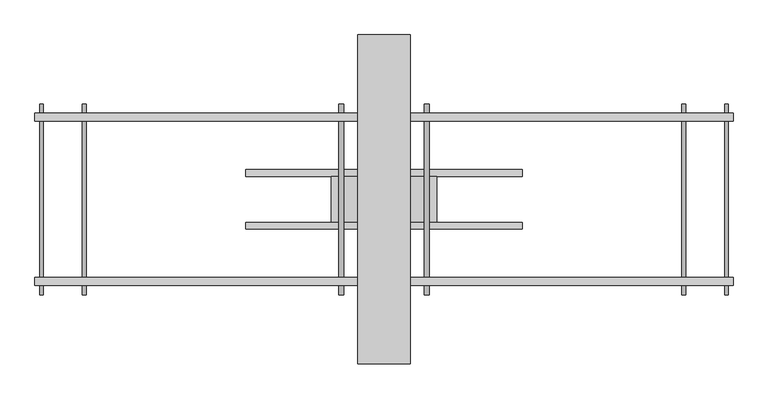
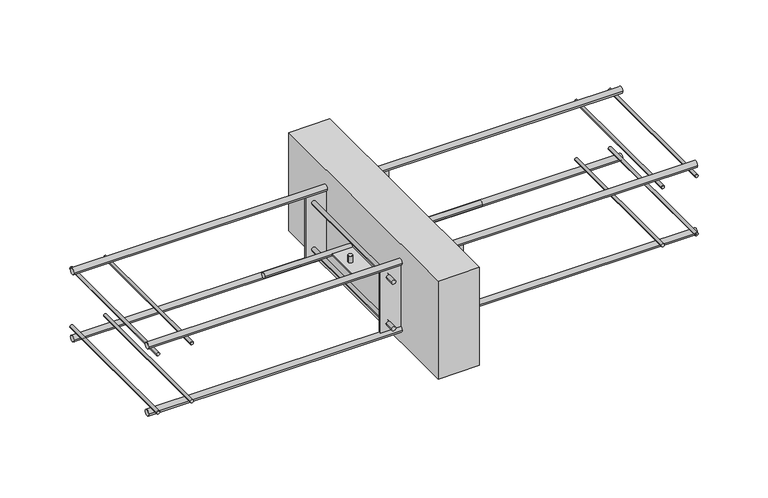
"""IFC4 building model written with IfcOpenShell, lengths in millimetres: proxy geometry, ACINOXplus_Typenreihe_M : MP+ S1."""

from ifc_helpers import new_model, si_unit, point, frame, frame_2d, origin, place, context, project, spatial, polyline, circle_curve, trimmed, segment, composite_curve, outline, extrude, source, transform, mapped, element, save
from ifc_brep_helpers import plane_surface, cylinder_surface, advanced_brep


def generic_models_0f1e28e0(model_context):
    return source(origin(), model_context, "Body", "SolidModel", [
        extrude(outline(polyline([(40.0, 250.0), (40.0, -250.0), (-40.0, -250.0), (-40.0, 250.0), (40.0, 250.0)])), frame((0.0, 0.0, -200.0), z_axis=(0.0, 0.0, 1.0), x_axis=(1.0, 0.0, 0.0)), (0.0, 0.0, 1.0), 200.0),
        extrude(outline(composite_curve([segment(trimmed(circle_curve(frame_2d((-40.0, -104.5)), 5.0), [point((-45.0, -104.5))], [point((-35.0, -104.5))], False, "CARTESIAN"), True, "CONTINUOUS"), segment(trimmed(circle_curve(frame_2d((-40.0, -104.5)), 5.0), [point((-35.0, -104.5))], [point((-45.0, -104.5))], False, "CARTESIAN"), True, "CONTINUOUS")], self_intersect=False)), frame((-210.0, 0.0, 0.0), z_axis=(1.0, 0.0, 0.0), x_axis=(0.0, 1.0, 0.0)), (0.0, 0.0, 1.0), 420.0),
        extrude(outline(composite_curve([segment(trimmed(circle_curve(frame_2d((40.0, -104.5)), 5.0), [point((35.0, -104.5))], [point((45.0, -104.5))], False, "CARTESIAN"), True, "CONTINUOUS"), segment(trimmed(circle_curve(frame_2d((40.0, -104.5)), 5.0), [point((45.0, -104.5))], [point((35.0, -104.5))], False, "CARTESIAN"), True, "CONTINUOUS")], self_intersect=False)), frame((-210.0, 0.0, 0.0), z_axis=(1.0, 0.0, 0.0), x_axis=(0.0, 1.0, 0.0)), (0.0, 0.0, 1.0), 420.0),
        advanced_brep(
        [(-69.0, 0.0, -89.5), (-61.0, 0.0, -89.5), (61.0, 0.0, -89.5), (69.0, 0.0, -89.5), (-69.0, 0.0, -119.5), (-61.0, 0.0, -119.5), (61.0, 0.0, -119.5), (69.0, 0.0, -119.5), (-69.0, 0.0, -103.0), (-61.0, 0.0, -103.0), (-61.0, 0.0, -106.0), (-69.0, 0.0, -106.0), (61.0, 0.0, -103.0), (69.0, 0.0, -103.0), (69.0, 0.0, -106.0), (61.0, 0.0, -106.0), (80.0, 35.0, -103.0), (-80.0, 35.0, -103.0), (-80.0, -35.0, -103.0), (80.0, -35.0, -103.0), (80.0, 35.0, -106.0), (80.0, -35.0, -106.0), (-80.0, -35.0, -106.0), (-80.0, 35.0, -106.0)],
        [
            (0, 1, circle_curve(frame((-65.0, 0.0, -89.5), z_axis=(0.0, 0.0, 1.0), x_axis=(1.0, 0.0, 0.0)), 4.0)),
            (1, 0, circle_curve(frame((-65.0, 0.0, -89.5), z_axis=(0.0, 0.0, 1.0), x_axis=(1.0, 0.0, 0.0)), 4.0)),
            (2, 3, circle_curve(frame((65.0, 0.0, -89.5), z_axis=(0.0, 0.0, 1.0), x_axis=(1.0, 0.0, 0.0)), 4.0)),
            (3, 2, circle_curve(frame((65.0, 0.0, -89.5), z_axis=(0.0, 0.0, 1.0), x_axis=(1.0, 0.0, 0.0)), 4.0)),
            (4, 5, circle_curve(frame((-65.0, 0.0, -119.5), z_axis=(0.0, 0.0, -1.0), x_axis=(1.0, 0.0, 0.0)), 4.0)),
            (5, 4, circle_curve(frame((-65.0, 0.0, -119.5), z_axis=(0.0, 0.0, -1.0), x_axis=(1.0, 0.0, 0.0)), 4.0)),
            (6, 7, circle_curve(frame((65.0, 0.0, -119.5), z_axis=(0.0, 0.0, -1.0), x_axis=(1.0, 0.0, 0.0)), 4.0)),
            (7, 6, circle_curve(frame((65.0, 0.0, -119.5), z_axis=(0.0, 0.0, -1.0), x_axis=(1.0, 0.0, 0.0)), 4.0)),
            (0, 8),
            (8, 9, circle_curve(frame((-65.0, 0.0, -103.0), z_axis=(0.0, 0.0, 1.0), x_axis=(1.0, 0.0, 0.0)), 4.0)),
            (9, 1),
            (5, 10),
            (10, 11, circle_curve(frame((-65.0, 0.0, -106.0), z_axis=(0.0, 0.0, -1.0), x_axis=(1.0, 0.0, 0.0)), 4.0)),
            (11, 4),
            (9, 8, circle_curve(frame((-65.0, 0.0, -103.0), z_axis=(0.0, 0.0, 1.0), x_axis=(1.0, 0.0, 0.0)), 4.0)),
            (11, 10, circle_curve(frame((-65.0, 0.0, -106.0), z_axis=(0.0, 0.0, -1.0), x_axis=(1.0, 0.0, 0.0)), 4.0)),
            (2, 12),
            (12, 13, circle_curve(frame((65.0, 0.0, -103.0), z_axis=(0.0, 0.0, 1.0), x_axis=(1.0, 0.0, 0.0)), 4.0)),
            (13, 3),
            (7, 14),
            (14, 15, circle_curve(frame((65.0, 0.0, -106.0), z_axis=(0.0, 0.0, -1.0), x_axis=(1.0, 0.0, 0.0)), 4.0)),
            (15, 6),
            (13, 12, circle_curve(frame((65.0, 0.0, -103.0), z_axis=(0.0, 0.0, 1.0), x_axis=(1.0, 0.0, 0.0)), 4.0)),
            (15, 14, circle_curve(frame((65.0, 0.0, -106.0), z_axis=(0.0, 0.0, -1.0), x_axis=(1.0, 0.0, 0.0)), 4.0)),
            (16, 17),
            (17, 18),
            (18, 19),
            (19, 16),
            (20, 21),
            (21, 22),
            (22, 23),
            (23, 20),
            (16, 20),
            (23, 17),
            (22, 18),
            (21, 19),
        ],
        [
            plane_surface(frame((-61.0, 0.0, -89.5), z_axis=(0.0, 0.0, 1.0), x_axis=(0.0, 1.0, 0.0))),
            plane_surface(frame((-61.0, 0.0, -119.5), z_axis=(0.0, 0.0, -1.0), x_axis=(0.0, -1.0, 0.0))),
            cylinder_surface(frame((-65.0, 0.0, -119.5), z_axis=(0.0, 0.0, 1.0), x_axis=(1.0, 0.0, 0.0)), 4.0),
            cylinder_surface(frame((65.0, 0.0, -104.5), z_axis=(0.0, 0.0, 1.0), x_axis=(1.0, 0.0, 0.0)), 4.0),
            plane_surface(frame((-80.0, 35.0, -103.0), z_axis=(0.0, 0.0, 1.0), x_axis=(-1.0, 0.0, 0.0))),
            plane_surface(frame((-80.0, 35.0, -106.0), z_axis=(0.0, 0.0, -1.0), x_axis=(1.0, 0.0, 0.0))),
            plane_surface(frame((80.0, 35.0, -103.0), z_axis=(0.0, 1.0, 0.0), x_axis=(0.0, 0.0, -1.0))),
            plane_surface(frame((-80.0, 35.0, -103.0), z_axis=(-1.0, 0.0, 0.0), x_axis=(0.0, 0.0, -1.0))),
            plane_surface(frame((-80.0, -35.0, -103.0), z_axis=(0.0, -1.0, 0.0), x_axis=(0.0, 0.0, -1.0))),
            plane_surface(frame((80.0, -35.0, -103.0), z_axis=(1.0, 0.0, 0.0), x_axis=(0.0, 0.0, -1.0))),
        ],
        [
            (0, [[1, 2]]),
            (0, [[3, 4]]),
            (1, [[5, 6]]),
            (1, [[7, 8]]),
            (2, [[-1, 9, 10, 11]]),
            (2, [[-6, 12, 13, 14]]),
            (2, [[-2, -11, 15, -9]]),
            (2, [[-5, -14, 16, -12]]),
            (3, [[-3, 17, 18, 19]]),
            (3, [[-8, 20, 21, 22]]),
            (3, [[-4, -19, 23, -17]]),
            (3, [[-7, -22, 24, -20]]),
            (4, [[25, 26, 27, 28], [-10, -15], [-18, -23]]),
            (5, [[29, 30, 31, 32], [-13, -16], [-21, -24]]),
            (6, [[-25, 33, -32, 34]]),
            (7, [[-26, -34, -31, 35]]),
            (8, [[-27, -35, -30, 36]]),
            (9, [[-28, -36, -29, -33]]),
        ],
    ),
        extrude(outline(polyline([(80.0, -123.5), (80.0, -126.5), (-80.0, -126.5), (-80.0, -123.5), (80.0, -123.5)])), frame((0.0, 0.0, -167.0), z_axis=(0.0, 0.0, 1.0), x_axis=(1.0, 0.0, 0.0)), (0.0, 0.0, 1.0), 125.0),
        extrude(outline(polyline([(80.0, 126.5), (80.0, 123.5), (-80.0, 123.5), (-80.0, 126.5), (80.0, 126.5)])), frame((0.0, 0.0, -167.0), z_axis=(0.0, 0.0, 1.0), x_axis=(1.0, 0.0, 0.0)), (0.0, 0.0, 1.0), 125.0),
        extrude(outline(composite_curve([segment(trimmed(circle_curve(frame_2d((-152.0, -65.0)), 4.0), [point((-152.0, -69.0))], [point((-152.0, -61.0))], False, "CARTESIAN"), True, "CONTINUOUS"), segment(trimmed(circle_curve(frame_2d((-152.0, -65.0)), 4.0), [point((-152.0, -61.0))], [point((-152.0, -69.0))], False, "CARTESIAN"), True, "CONTINUOUS")], self_intersect=False)), frame((0.0, 126.5, 0.0), z_axis=(0.0, 1.0, 0.0), x_axis=(0.0, 0.0, 1.0)), (0.0, 0.0, 1.0), 18.5),
        extrude(outline(composite_curve([segment(trimmed(circle_curve(frame_2d((-152.0, -65.0)), 4.0), [point((-152.0, -61.0))], [point((-152.0, -69.0))], False, "CARTESIAN"), True, "CONTINUOUS"), segment(trimmed(circle_curve(frame_2d((-152.0, -65.0)), 4.0), [point((-152.0, -69.0))], [point((-152.0, -61.0))], False, "CARTESIAN"), True, "CONTINUOUS")], self_intersect=False)), frame((0.0, -145.0, 0.0), z_axis=(0.0, 1.0, 0.0), x_axis=(0.0, 0.0, 1.0)), (0.0, 0.0, 1.0), 18.5),
        extrude(outline(composite_curve([segment(trimmed(circle_curve(frame_2d((-152.0, -65.0)), 4.0), [point((-152.0, -69.0))], [point((-152.0, -61.0))], False, "CARTESIAN"), True, "CONTINUOUS"), segment(trimmed(circle_curve(frame_2d((-152.0, -65.0)), 4.0), [point((-152.0, -61.0))], [point((-152.0, -69.0))], False, "CARTESIAN"), True, "CONTINUOUS")], self_intersect=False)), frame((0.0, -123.5, 0.0), z_axis=(0.0, 1.0, 0.0), x_axis=(0.0, 0.0, 1.0)), (0.0, 0.0, 1.0), 247.0),
        extrude(outline(composite_curve([segment(trimmed(circle_curve(frame_2d((-152.0, 65.0)), 4.0), [point((-152.0, 61.0))], [point((-152.0, 69.0))], False, "CARTESIAN"), True, "CONTINUOUS"), segment(trimmed(circle_curve(frame_2d((-152.0, 65.0)), 4.0), [point((-152.0, 69.0))], [point((-152.0, 61.0))], False, "CARTESIAN"), True, "CONTINUOUS")], self_intersect=False)), frame((0.0, 126.5, 0.0), z_axis=(0.0, 1.0, 0.0), x_axis=(0.0, 0.0, 1.0)), (0.0, 0.0, 1.0), 18.5),
        extrude(outline(composite_curve([segment(trimmed(circle_curve(frame_2d((-152.0, 65.0)), 4.0), [point((-152.0, 69.0))], [point((-152.0, 61.0))], False, "CARTESIAN"), True, "CONTINUOUS"), segment(trimmed(circle_curve(frame_2d((-152.0, 65.0)), 4.0), [point((-152.0, 61.0))], [point((-152.0, 69.0))], False, "CARTESIAN"), True, "CONTINUOUS")], self_intersect=False)), frame((0.0, -145.0, 0.0), z_axis=(0.0, 1.0, 0.0), x_axis=(0.0, 0.0, 1.0)), (0.0, 0.0, 1.0), 18.5),
        extrude(outline(composite_curve([segment(trimmed(circle_curve(frame_2d((-152.0, 65.0)), 4.0), [point((-152.0, 61.0))], [point((-152.0, 69.0))], False, "CARTESIAN"), True, "CONTINUOUS"), segment(trimmed(circle_curve(frame_2d((-152.0, 65.0)), 4.0), [point((-152.0, 69.0))], [point((-152.0, 61.0))], False, "CARTESIAN"), True, "CONTINUOUS")], self_intersect=False)), frame((0.0, -123.5, 0.0), z_axis=(0.0, 1.0, 0.0), x_axis=(0.0, 0.0, 1.0)), (0.0, 0.0, 1.0), 247.0),
        extrude(outline(composite_curve([segment(trimmed(circle_curve(frame_2d((-57.0, -65.0)), 4.0), [point((-57.0, -69.0))], [point((-57.0, -61.0))], False, "CARTESIAN"), True, "CONTINUOUS"), segment(trimmed(circle_curve(frame_2d((-57.0, -65.0)), 4.0), [point((-57.0, -61.0))], [point((-57.0, -69.0))], False, "CARTESIAN"), True, "CONTINUOUS")], self_intersect=False)), frame((0.0, 126.5, 0.0), z_axis=(0.0, 1.0, 0.0), x_axis=(0.0, 0.0, 1.0)), (0.0, 0.0, 1.0), 18.5),
        extrude(outline(composite_curve([segment(trimmed(circle_curve(frame_2d((-57.0, -65.0)), 4.0), [point((-57.0, -61.0))], [point((-57.0, -69.0))], False, "CARTESIAN"), True, "CONTINUOUS"), segment(trimmed(circle_curve(frame_2d((-57.0, -65.0)), 4.0), [point((-57.0, -69.0))], [point((-57.0, -61.0))], False, "CARTESIAN"), True, "CONTINUOUS")], self_intersect=False)), frame((0.0, -145.0, 0.0), z_axis=(0.0, 1.0, 0.0), x_axis=(0.0, 0.0, 1.0)), (0.0, 0.0, 1.0), 18.5),
        extrude(outline(composite_curve([segment(trimmed(circle_curve(frame_2d((-57.0, -65.0)), 4.0), [point((-57.0, -69.0))], [point((-57.0, -61.0))], False, "CARTESIAN"), True, "CONTINUOUS"), segment(trimmed(circle_curve(frame_2d((-57.0, -65.0)), 4.0), [point((-57.0, -61.0))], [point((-57.0, -69.0))], False, "CARTESIAN"), True, "CONTINUOUS")], self_intersect=False)), frame((0.0, -123.5, 0.0), z_axis=(0.0, 1.0, 0.0), x_axis=(0.0, 0.0, 1.0)), (0.0, 0.0, 1.0), 247.0),
        extrude(outline(composite_curve([segment(trimmed(circle_curve(frame_2d((-57.0, 65.0)), 4.0), [point((-57.0, 61.0))], [point((-57.0, 69.0))], False, "CARTESIAN"), True, "CONTINUOUS"), segment(trimmed(circle_curve(frame_2d((-57.0, 65.0)), 4.0), [point((-57.0, 69.0))], [point((-57.0, 61.0))], False, "CARTESIAN"), True, "CONTINUOUS")], self_intersect=False)), frame((0.0, 126.5, 0.0), z_axis=(0.0, 1.0, 0.0), x_axis=(0.0, 0.0, 1.0)), (0.0, 0.0, 1.0), 18.5),
        extrude(outline(composite_curve([segment(trimmed(circle_curve(frame_2d((-57.0, 65.0)), 4.0), [point((-57.0, 69.0))], [point((-57.0, 61.0))], False, "CARTESIAN"), True, "CONTINUOUS"), segment(trimmed(circle_curve(frame_2d((-57.0, 65.0)), 4.0), [point((-57.0, 61.0))], [point((-57.0, 69.0))], False, "CARTESIAN"), True, "CONTINUOUS")], self_intersect=False)), frame((0.0, -145.0, 0.0), z_axis=(0.0, 1.0, 0.0), x_axis=(0.0, 0.0, 1.0)), (0.0, 0.0, 1.0), 18.5),
        extrude(outline(composite_curve([segment(trimmed(circle_curve(frame_2d((-57.0, 65.0)), 4.0), [point((-57.0, 61.0))], [point((-57.0, 69.0))], False, "CARTESIAN"), True, "CONTINUOUS"), segment(trimmed(circle_curve(frame_2d((-57.0, 65.0)), 4.0), [point((-57.0, 69.0))], [point((-57.0, 61.0))], False, "CARTESIAN"), True, "CONTINUOUS")], self_intersect=False)), frame((0.0, -123.5, 0.0), z_axis=(0.0, 1.0, 0.0), x_axis=(0.0, 0.0, 1.0)), (0.0, 0.0, 1.0), 247.0),
        extrude(outline(composite_curve([segment(trimmed(circle_curve(frame_2d((125.0, -173.0)), 6.0), [point((119.0, -173.0))], [point((131.0, -173.0))], False, "CARTESIAN"), True, "CONTINUOUS"), segment(trimmed(circle_curve(frame_2d((125.0, -173.0)), 6.0), [point((131.0, -173.0))], [point((119.0, -173.0))], False, "CARTESIAN"), True, "CONTINUOUS")], self_intersect=False)), frame((-530.0, 0.0, 0.0), z_axis=(1.0, 0.0, 0.0), x_axis=(0.0, 1.0, 0.0)), (0.0, 0.0, 1.0), 1060.0),
        extrude(outline(composite_curve([segment(trimmed(circle_curve(frame_2d((-125.0, -173.0)), 6.0), [point((-131.0, -173.0))], [point((-119.0, -173.0))], False, "CARTESIAN"), True, "CONTINUOUS"), segment(trimmed(circle_curve(frame_2d((-125.0, -173.0)), 6.0), [point((-119.0, -173.0))], [point((-131.0, -173.0))], False, "CARTESIAN"), True, "CONTINUOUS")], self_intersect=False)), frame((-530.0, 0.0, 0.0), z_axis=(1.0, 0.0, 0.0), x_axis=(0.0, 1.0, 0.0)), (0.0, 0.0, 1.0), 1060.0),
        extrude(outline(composite_curve([segment(trimmed(circle_curve(frame_2d((125.0, -36.0)), 6.0), [point((119.0, -36.0))], [point((131.0, -36.0))], False, "CARTESIAN"), True, "CONTINUOUS"), segment(trimmed(circle_curve(frame_2d((125.0, -36.0)), 6.0), [point((131.0, -36.0))], [point((119.0, -36.0))], False, "CARTESIAN"), True, "CONTINUOUS")], self_intersect=False)), frame((-530.0, 0.0, 0.0), z_axis=(1.0, 0.0, 0.0), x_axis=(0.0, 1.0, 0.0)), (0.0, 0.0, 1.0), 1060.0),
        extrude(outline(composite_curve([segment(trimmed(circle_curve(frame_2d((-125.0, -36.0)), 6.0), [point((-131.0, -36.0))], [point((-119.0, -36.0))], False, "CARTESIAN"), True, "CONTINUOUS"), segment(trimmed(circle_curve(frame_2d((-125.0, -36.0)), 6.0), [point((-119.0, -36.0))], [point((-131.0, -36.0))], False, "CARTESIAN"), True, "CONTINUOUS")], self_intersect=False)), frame((-530.0, 0.0, 0.0), z_axis=(1.0, 0.0, 0.0), x_axis=(0.0, 1.0, 0.0)), (0.0, 0.0, 1.0), 1060.0),
        extrude(outline(composite_curve([segment(trimmed(circle_curve(frame_2d((-164.0, -520.0)), 3.0), [point((-164.0, -517.0))], [point((-164.0, -523.0))], False, "CARTESIAN"), True, "CONTINUOUS"), segment(trimmed(circle_curve(frame_2d((-164.0, -520.0)), 3.0), [point((-164.0, -523.0))], [point((-164.0, -517.0))], False, "CARTESIAN"), True, "CONTINUOUS")], self_intersect=False)), frame((0.0, -145.0, 0.0), z_axis=(0.0, 1.0, 0.0), x_axis=(0.0, 0.0, 1.0)), (0.0, 0.0, 1.0), 290.0),
        extrude(outline(composite_curve([segment(trimmed(circle_curve(frame_2d((-164.0, -455.0)), 3.0), [point((-164.0, -452.0))], [point((-164.0, -458.0))], False, "CARTESIAN"), True, "CONTINUOUS"), segment(trimmed(circle_curve(frame_2d((-164.0, -455.0)), 3.0), [point((-164.0, -458.0))], [point((-164.0, -452.0))], False, "CARTESIAN"), True, "CONTINUOUS")], self_intersect=False)), frame((0.0, -145.0, 0.0), z_axis=(0.0, 1.0, 0.0), x_axis=(0.0, 0.0, 1.0)), (0.0, 0.0, 1.0), 290.0),
        extrude(outline(composite_curve([segment(trimmed(circle_curve(frame_2d((-164.0, 455.0)), 3.0), [point((-164.0, 458.0))], [point((-164.0, 452.0))], False, "CARTESIAN"), True, "CONTINUOUS"), segment(trimmed(circle_curve(frame_2d((-164.0, 455.0)), 3.0), [point((-164.0, 452.0))], [point((-164.0, 458.0))], False, "CARTESIAN"), True, "CONTINUOUS")], self_intersect=False)), frame((0.0, -145.0, 0.0), z_axis=(0.0, 1.0, 0.0), x_axis=(0.0, 0.0, 1.0)), (0.0, 0.0, 1.0), 290.0),
        extrude(outline(composite_curve([segment(trimmed(circle_curve(frame_2d((-164.0, 520.0)), 3.0), [point((-164.0, 523.0))], [point((-164.0, 517.0))], False, "CARTESIAN"), True, "CONTINUOUS"), segment(trimmed(circle_curve(frame_2d((-164.0, 520.0)), 3.0), [point((-164.0, 517.0))], [point((-164.0, 523.0))], False, "CARTESIAN"), True, "CONTINUOUS")], self_intersect=False)), frame((0.0, -145.0, 0.0), z_axis=(0.0, 1.0, 0.0), x_axis=(0.0, 0.0, 1.0)), (0.0, 0.0, 1.0), 290.0),
        extrude(outline(composite_curve([segment(trimmed(circle_curve(frame_2d((-45.0, 455.0)), 3.0), [point((-45.0, 458.0))], [point((-45.0, 452.0))], False, "CARTESIAN"), True, "CONTINUOUS"), segment(trimmed(circle_curve(frame_2d((-45.0, 455.0)), 3.0), [point((-45.0, 452.0))], [point((-45.0, 458.0))], False, "CARTESIAN"), True, "CONTINUOUS")], self_intersect=False)), frame((0.0, -145.0, 0.0), z_axis=(0.0, 1.0, 0.0), x_axis=(0.0, 0.0, 1.0)), (0.0, 0.0, 1.0), 290.0),
        extrude(outline(composite_curve([segment(trimmed(circle_curve(frame_2d((-45.0, 520.0)), 3.0), [point((-45.0, 523.0))], [point((-45.0, 517.0))], False, "CARTESIAN"), True, "CONTINUOUS"), segment(trimmed(circle_curve(frame_2d((-45.0, 520.0)), 3.0), [point((-45.0, 517.0))], [point((-45.0, 523.0))], False, "CARTESIAN"), True, "CONTINUOUS")], self_intersect=False)), frame((0.0, -145.0, 0.0), z_axis=(0.0, 1.0, 0.0), x_axis=(0.0, 0.0, 1.0)), (0.0, 0.0, 1.0), 290.0),
        extrude(outline(composite_curve([segment(trimmed(circle_curve(frame_2d((-45.0, -520.0)), 3.0), [point((-45.0, -517.0))], [point((-45.0, -523.0))], False, "CARTESIAN"), True, "CONTINUOUS"), segment(trimmed(circle_curve(frame_2d((-45.0, -520.0)), 3.0), [point((-45.0, -523.0))], [point((-45.0, -517.0))], False, "CARTESIAN"), True, "CONTINUOUS")], self_intersect=False)), frame((0.0, -145.0, 0.0), z_axis=(0.0, 1.0, 0.0), x_axis=(0.0, 0.0, 1.0)), (0.0, 0.0, 1.0), 290.0),
        extrude(outline(composite_curve([segment(trimmed(circle_curve(frame_2d((-45.0, -455.0)), 3.0), [point((-45.0, -452.0))], [point((-45.0, -458.0))], False, "CARTESIAN"), True, "CONTINUOUS"), segment(trimmed(circle_curve(frame_2d((-45.0, -455.0)), 3.0), [point((-45.0, -458.0))], [point((-45.0, -452.0))], False, "CARTESIAN"), True, "CONTINUOUS")], self_intersect=False)), frame((0.0, -145.0, 0.0), z_axis=(0.0, 1.0, 0.0), x_axis=(0.0, 0.0, 1.0)), (0.0, 0.0, 1.0), 290.0),
    ])


if __name__ == "__main__":
    model = new_model("IFC4")
    model_context = context("Model", 3, world=origin())
    ifc_project = project(units=[si_unit("LENGTHUNIT", "METRE", prefix="MILLI")], contexts=[model_context])
    site = spatial("IfcSite", under=ifc_project)
    building = spatial("IfcBuilding", under=site)
    placement = place(None, origin())
    generic_models_shape = generic_models_0f1e28e0(model_context)
    element("IfcBuildingElementProxy", 1, Name="ACINOXplus_Typenreihe_M : MP+ S1", ObjectType="ACINOXplus_Typenreihe_M : MP+ S1", at=placement, inside=building, context=model_context, shape_type="MappedRepresentation", body=[
        mapped(generic_models_shape, transform((0.0, 0.0, 0.0), x_axis=(1.0, 0.0, 0.0), y_axis=(0.0, 1.0, 0.0), z_axis=(0.0, 0.0, 1.0))),
    ])
    save(model, "model.ifc")
